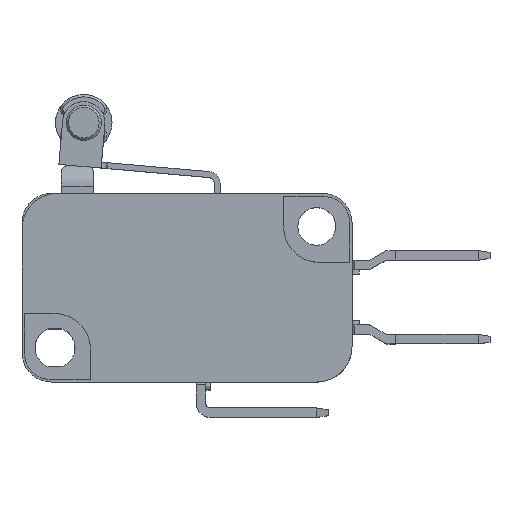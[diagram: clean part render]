
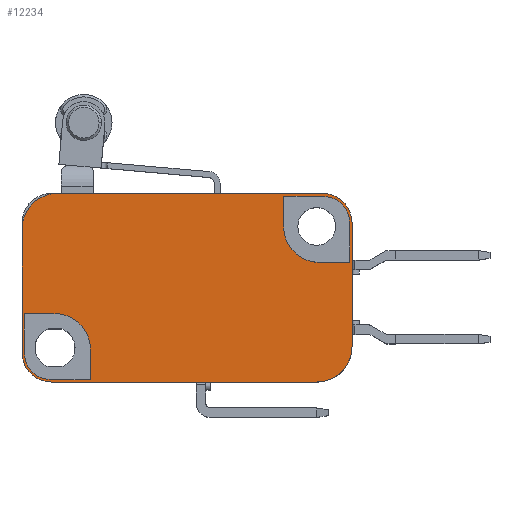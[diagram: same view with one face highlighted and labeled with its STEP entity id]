
A CAD part, top view. The second image highlights one B-rep face of the part: STEP entity #12234.
In plain terms, the highlighted planar face has unit normal (0, 0, 1).
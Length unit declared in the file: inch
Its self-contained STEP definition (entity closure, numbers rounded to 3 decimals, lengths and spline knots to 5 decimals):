
#313=DIRECTION('',(1.,0.,0.));
#314=VECTOR('',#313,22.5);
#315=CARTESIAN_POINT('',(2.5,-0.1,2.8));
#316=LINE('',#315,#314);
#736=DIRECTION('',(-1.,0.,0.));
#737=VECTOR('',#736,22.5);
#738=CARTESIAN_POINT('',(25.5,15.9,2.8));
#739=LINE('',#738,#737);
#1370=DIRECTION('',(0.,1.,0.));
#1371=VECTOR('',#1370,10.5);
#1372=CARTESIAN_POINT('',(28.,2.9,2.8));
#1373=LINE('',#1372,#1371);
#3213=DIRECTION('',(0.,-1.,0.));
#3214=VECTOR('',#3213,10.5);
#3215=CARTESIAN_POINT('',(0.,12.9,2.8));
#3216=LINE('',#3215,#3214);
#3225=CARTESIAN_POINT('',(3.,12.9,2.8));
#3226=DIRECTION('',(0.,0.,-1.));
#3227=DIRECTION('',(-1.,0.,0.));
#3228=AXIS2_PLACEMENT_3D('',#3225,#3226,#3227);
#3230=CARTESIAN_POINT('',(25.5,13.4,2.8));
#3231=DIRECTION('',(0.,0.,-1.));
#3232=DIRECTION('',(0.,1.,0.));
#3233=AXIS2_PLACEMENT_3D('',#3230,#3231,#3232);
#3235=CARTESIAN_POINT('',(25.,2.9,2.8));
#3236=DIRECTION('',(0.,0.,-1.));
#3237=DIRECTION('',(1.,0.,0.));
#3238=AXIS2_PLACEMENT_3D('',#3235,#3236,#3237);
#3240=CARTESIAN_POINT('',(2.5,2.4,2.8));
#3241=DIRECTION('',(0.,0.,-1.));
#3242=DIRECTION('',(0.,-1.,0.));
#3243=AXIS2_PLACEMENT_3D('',#3240,#3241,#3242);
#3245=CARTESIAN_POINT('',(2.8,2.7,2.8));
#3246=DIRECTION('',(0.,0.,1.));
#3247=DIRECTION('',(1.,0.,0.));
#3248=AXIS2_PLACEMENT_3D('',#3245,#3246,#3247);
#3250=CARTESIAN_POINT('',(2.5,2.4,2.8));
#3251=DIRECTION('',(0.,0.,1.));
#3252=DIRECTION('',(-1.,0.,0.));
#3253=AXIS2_PLACEMENT_3D('',#3250,#3251,#3252);
#3255=CARTESIAN_POINT('',(25.2,13.05,2.8));
#3256=DIRECTION('',(0.,0.,1.));
#3257=DIRECTION('',(-1.,0.,0.));
#3258=AXIS2_PLACEMENT_3D('',#3255,#3256,#3257);
#3260=CARTESIAN_POINT('',(25.5,13.35,2.8));
#3261=DIRECTION('',(0.,0.,1.));
#3262=DIRECTION('',(1.,0.,0.));
#3263=AXIS2_PLACEMENT_3D('',#3260,#3261,#3262);
#3277=DIRECTION('',(0.,-1.,0.));
#3278=VECTOR('',#3277,2.6);
#3279=CARTESIAN_POINT('',(5.8,2.7,2.8));
#3280=LINE('',#3279,#3278);
#3310=DIRECTION('',(-1.,0.,0.));
#3311=VECTOR('',#3310,3.3);
#3312=CARTESIAN_POINT('',(5.8,0.1,2.8));
#3313=LINE('',#3312,#3311);
#3326=DIRECTION('',(0.,1.,0.));
#3327=VECTOR('',#3326,3.3);
#3328=CARTESIAN_POINT('',(0.2,2.4,2.8));
#3329=LINE('',#3328,#3327);
#3350=DIRECTION('',(1.,0.,0.));
#3351=VECTOR('',#3350,2.6);
#3352=CARTESIAN_POINT('',(0.2,5.7,2.8));
#3353=LINE('',#3352,#3351);
#3893=DIRECTION('',(0.,1.,0.));
#3894=VECTOR('',#3893,2.6);
#3895=CARTESIAN_POINT('',(22.2,13.05,2.8));
#3896=LINE('',#3895,#3894);
#3921=DIRECTION('',(1.,0.,0.));
#3922=VECTOR('',#3921,3.3);
#3923=CARTESIAN_POINT('',(22.2,15.65,2.8));
#3924=LINE('',#3923,#3922);
#3937=DIRECTION('',(0.,-1.,0.));
#3938=VECTOR('',#3937,3.3);
#3939=CARTESIAN_POINT('',(27.8,13.35,2.8));
#3940=LINE('',#3939,#3938);
#3961=DIRECTION('',(-1.,0.,0.));
#3962=VECTOR('',#3961,2.6);
#3963=CARTESIAN_POINT('',(27.8,10.05,2.8));
#3964=LINE('',#3963,#3962);
#6644=CARTESIAN_POINT('',(0.,12.9,2.8));
#6645=CARTESIAN_POINT('',(3.,15.9,2.8));
#6646=VERTEX_POINT('',#6644);
#6647=VERTEX_POINT('',#6645);
#6648=CARTESIAN_POINT('',(25.5,15.9,2.8));
#6649=VERTEX_POINT('',#6648);
#6650=CARTESIAN_POINT('',(28.,13.4,2.8));
#6651=VERTEX_POINT('',#6650);
#6652=CARTESIAN_POINT('',(28.,2.9,2.8));
#6653=VERTEX_POINT('',#6652);
#6654=CARTESIAN_POINT('',(25.,-0.1,2.8));
#6655=VERTEX_POINT('',#6654);
#6656=CARTESIAN_POINT('',(2.5,-0.1,2.8));
#6657=VERTEX_POINT('',#6656);
#6658=CARTESIAN_POINT('',(0.,2.4,2.8));
#6659=VERTEX_POINT('',#6658);
#6660=CARTESIAN_POINT('',(5.8,2.7,2.8));
#6661=CARTESIAN_POINT('',(5.8,0.1,2.8));
#6662=VERTEX_POINT('',#6660);
#6663=VERTEX_POINT('',#6661);
#6664=CARTESIAN_POINT('',(0.2,5.7,2.8));
#6665=CARTESIAN_POINT('',(2.8,5.7,2.8));
#6666=VERTEX_POINT('',#6664);
#6667=VERTEX_POINT('',#6665);
#6668=CARTESIAN_POINT('',(0.2,2.4,2.8));
#6669=VERTEX_POINT('',#6668);
#6670=CARTESIAN_POINT('',(2.5,0.1,2.8));
#6671=VERTEX_POINT('',#6670);
#6672=CARTESIAN_POINT('',(22.2,13.05,2.8));
#6673=CARTESIAN_POINT('',(22.2,15.65,2.8));
#6674=VERTEX_POINT('',#6672);
#6675=VERTEX_POINT('',#6673);
#6676=CARTESIAN_POINT('',(27.8,10.05,2.8));
#6677=CARTESIAN_POINT('',(25.2,10.05,2.8));
#6678=VERTEX_POINT('',#6676);
#6679=VERTEX_POINT('',#6677);
#6680=CARTESIAN_POINT('',(27.8,13.35,2.8));
#6681=VERTEX_POINT('',#6680);
#6682=CARTESIAN_POINT('',(25.5,15.65,2.8));
#6683=VERTEX_POINT('',#6682);
#12189=CARTESIAN_POINT('',(14.,7.9,2.8));
#12190=DIRECTION('',(0.,0.,1.));
#12191=DIRECTION('',(-1.,0.,0.));
#12192=AXIS2_PLACEMENT_3D('',#12189,#12190,#12191);
#12193=PLANE('',#12192);
#12194=ORIENTED_EDGE('',*,*,#8885,.T.);
#12195=ORIENTED_EDGE('',*,*,#8902,.F.);
#12197=ORIENTED_EDGE('',*,*,#12196,.T.);
#12198=ORIENTED_EDGE('',*,*,#9687,.F.);
#12199=ORIENTED_EDGE('',*,*,#9727,.T.);
#12200=ORIENTED_EDGE('',*,*,#8215,.F.);
#12202=ORIENTED_EDGE('',*,*,#12201,.T.);
#12203=ORIENTED_EDGE('',*,*,#12174,.F.);
#12204=EDGE_LOOP('',(#12194,#12195,#12197,#12198,#12199,#12200,#12202,#12203));
#12205=FACE_OUTER_BOUND('',#12204,.F.);
#12207=ORIENTED_EDGE('',*,*,#12206,.F.);
#12209=ORIENTED_EDGE('',*,*,#12208,.T.);
#12211=ORIENTED_EDGE('',*,*,#12210,.F.);
#12213=ORIENTED_EDGE('',*,*,#12212,.F.);
#12215=ORIENTED_EDGE('',*,*,#12214,.T.);
#12217=ORIENTED_EDGE('',*,*,#12216,.F.);
#12218=EDGE_LOOP('',(#12207,#12209,#12211,#12213,#12215,#12217));
#12219=FACE_BOUND('',#12218,.F.);
#12221=ORIENTED_EDGE('',*,*,#12220,.F.);
#12223=ORIENTED_EDGE('',*,*,#12222,.T.);
#12225=ORIENTED_EDGE('',*,*,#12224,.F.);
#12227=ORIENTED_EDGE('',*,*,#12226,.F.);
#12229=ORIENTED_EDGE('',*,*,#12228,.T.);
#12231=ORIENTED_EDGE('',*,*,#12230,.F.);
#12232=EDGE_LOOP('',(#12221,#12223,#12225,#12227,#12229,#12231));
#12233=FACE_BOUND('',#12232,.F.);
#12234=ADVANCED_FACE('',(#12205,#12219,#12233),#12193,.T.);
#3229=CIRCLE('',#3228,3.);
#3234=CIRCLE('',#3233,2.5);
#3239=CIRCLE('',#3238,3.);
#3244=CIRCLE('',#3243,2.5);
#3249=CIRCLE('',#3248,3.);
#3254=CIRCLE('',#3253,2.3);
#3259=CIRCLE('',#3258,3.);
#3264=CIRCLE('',#3263,2.3);
#8215=EDGE_CURVE('',#6657,#6655,#316,.T.);
#8885=EDGE_CURVE('',#6646,#6647,#3229,.T.);
#8902=EDGE_CURVE('',#6649,#6647,#739,.T.);
#9687=EDGE_CURVE('',#6653,#6651,#1373,.T.);
#9727=EDGE_CURVE('',#6653,#6655,#3239,.T.);
#12174=EDGE_CURVE('',#6646,#6659,#3216,.T.);
#12196=EDGE_CURVE('',#6649,#6651,#3234,.T.);
#12201=EDGE_CURVE('',#6657,#6659,#3244,.T.);
#12206=EDGE_CURVE('',#6662,#6663,#3280,.T.);
#12208=EDGE_CURVE('',#6662,#6667,#3249,.T.);
#12210=EDGE_CURVE('',#6666,#6667,#3353,.T.);
#12212=EDGE_CURVE('',#6669,#6666,#3329,.T.);
#12214=EDGE_CURVE('',#6669,#6671,#3254,.T.);
#12216=EDGE_CURVE('',#6663,#6671,#3313,.T.);
#12220=EDGE_CURVE('',#6674,#6675,#3896,.T.);
#12222=EDGE_CURVE('',#6674,#6679,#3259,.T.);
#12224=EDGE_CURVE('',#6678,#6679,#3964,.T.);
#12226=EDGE_CURVE('',#6681,#6678,#3940,.T.);
#12228=EDGE_CURVE('',#6681,#6683,#3264,.T.);
#12230=EDGE_CURVE('',#6675,#6683,#3924,.T.);
